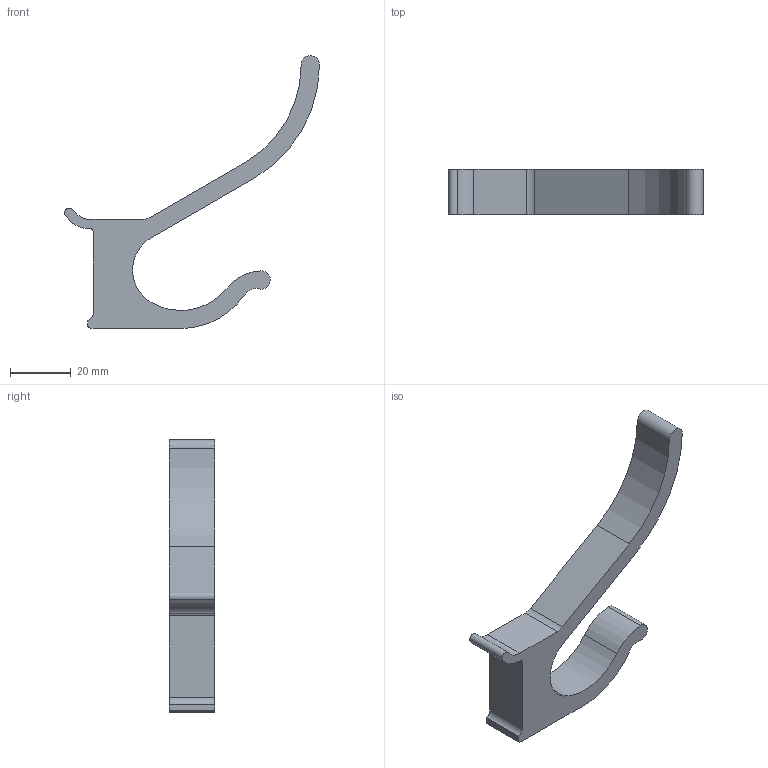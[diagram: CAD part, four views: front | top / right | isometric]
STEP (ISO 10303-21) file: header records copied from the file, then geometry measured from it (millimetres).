
FILE_DESCRIPTION(/* description */ ('Unknown'),/* implementation_level */ '2;1');
FILE_NAME(/* name */ '032 028 05 Wieszak L=15',/* time_stamp */ '2023-04-17T14:46:55+02:00',/* author */ ('Unknown'),/* organization */ ('Unknown'),/* preprocessor_version */ 'ST-DEVELOPER v18.102',/* originating_system */ 'Solid Edge',/* authorisation */ 'Unknown');
FILE_SCHEMA (('AUTOMOTIVE_DESIGN {1 0 10303 214 3 1 1}'));
Length unit declared in the file: millimetre
Products named in the file (1): 032 028 05 Wieszak L=15
Bounding box: 84.03 x 15 x 90 mm (x, y, z)
Volume: 20810.9 mm3; surface area: 8493.2 mm2
Topology: 1 solids, 1 shells, 26 faces, 72 edges, 48 vertices
Faces by surface type: cylinder 18, plane 8
Entity records: 882 total; most frequent: DIRECTION 162, CARTESIAN_POINT 147, ORIENTED_EDGE 144, EDGE_CURVE 72, AXIS2_PLACEMENT_3D 63, VERTEX_POINT 48, LINE 36, VECTOR 36
